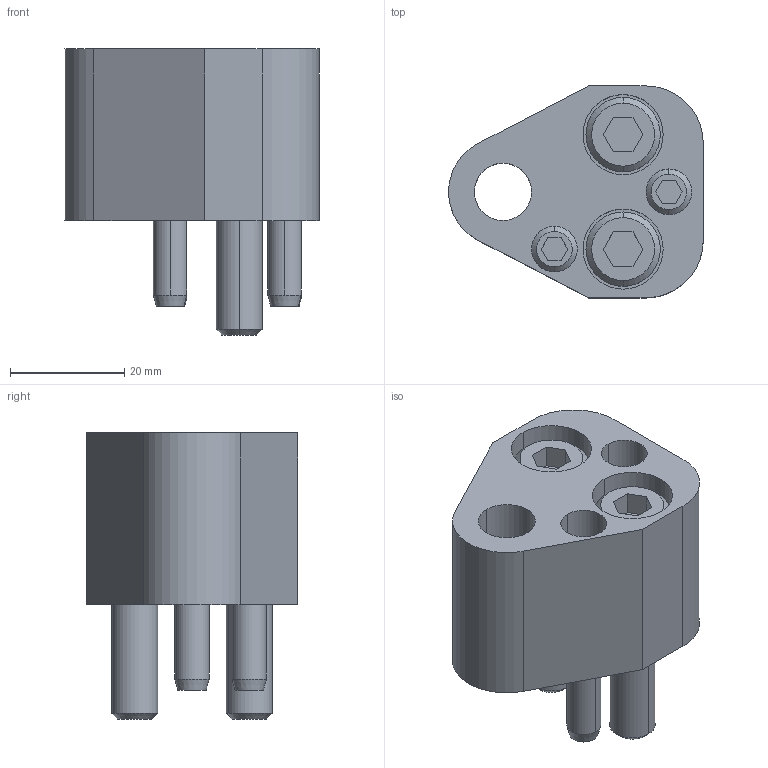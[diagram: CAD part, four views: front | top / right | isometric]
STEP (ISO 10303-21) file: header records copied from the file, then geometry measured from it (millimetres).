
FILE_DESCRIPTION(/* description */ (''),/* implementation_level */ '2;1');
FILE_NAME(/* name */ '3d_fpar10_03767_r00.stp',/* time_stamp */ '2011-01-10T14:15:35+09:00',/* author */ ('MISUMI'),/* organization */ (''),/* preprocessor_version */ 'ST-DEVELOPER v11',/* originating_system */ 'UGS - NX 5.0',/* authorisation */ '');
FILE_SCHEMA (('CONFIG_CONTROL_DESIGN'));
Length unit declared in the file: millimetre
Products named in the file (1): 3d_fpar10_03767_r00
Bounding box: 44.47 x 37 x 50 mm (x, y, z)
Volume: 34979.1 mm3; surface area: 15819.9 mm2
Topology: 7 solids, 7 shells, 135 faces, 294 edges, 188 vertices
Faces by surface type: plane 60, cylinder 49, cone 26
Entity records: 3836 total; most frequent: DIRECTION 684, CARTESIAN_POINT 672, ORIENTED_EDGE 588, EDGE_CURVE 294, AXIS2_PLACEMENT_3D 260, VERTEX_POINT 188, LINE 164, VECTOR 164
